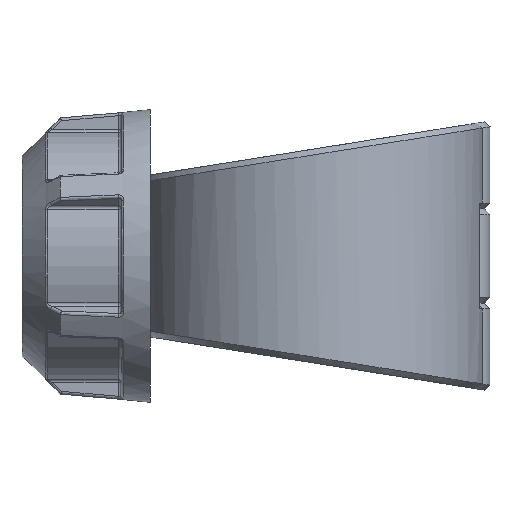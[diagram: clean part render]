
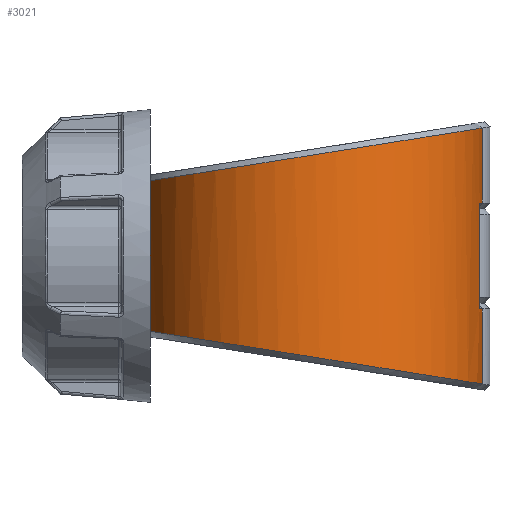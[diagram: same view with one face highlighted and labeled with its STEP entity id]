
A CAD part, left-side view. The second image highlights one B-rep face of the part: STEP entity #3021.
In plain terms, the highlighted cylindrical face has radius 59.5 mm (diameter 119 mm), a partial arc.
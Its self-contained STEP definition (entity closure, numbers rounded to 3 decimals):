
#212=FACE_OUTER_BOUND('',#416,.T.);
#416=EDGE_LOOP('',(#2055,#2056,#2057,#2058,#2059,#2060,#2061,#2062,#2063,
#2064,#2065,#2066));
#623=CIRCLE('',#3251,59.5);
#626=CIRCLE('',#3256,59.5);
#805=B_SPLINE_CURVE_WITH_KNOTS('',3,(#4524,#4525,#4526,#4527),
 .UNSPECIFIED.,.F.,.F.,(4,4),(-0.002,0.),.UNSPECIFIED.);
#806=B_SPLINE_CURVE_WITH_KNOTS('',3,(#4529,#4530,#4531,#4532),
 .UNSPECIFIED.,.F.,.F.,(4,4),(-3.037,-3.037),
 .UNSPECIFIED.);
#807=B_SPLINE_CURVE_WITH_KNOTS('',3,(#4533,#4534,#4535,#4536,#4537,#4538,
#4539,#4540,#4541,#4542),.UNSPECIFIED.,.F.,.F.,(4,1,1,1,1,1,1,4),(0.316,
0.596,1.005,1.415,1.824,2.233,
2.642,3.037),.UNSPECIFIED.);
#808=B_SPLINE_CURVE_WITH_KNOTS('',3,(#4544,#4545,#4546,#4547,#4548,#4549,
#4550,#4551,#4552,#4553),.UNSPECIFIED.,.F.,.F.,(4,1,1,1,1,1,1,4),(-3.037,
-2.642,-2.233,-1.824,-1.415,
-1.005,-0.596,-0.316),.UNSPECIFIED.);
#809=B_SPLINE_CURVE_WITH_KNOTS('',3,(#4555,#4556,#4557,#4558),
 .UNSPECIFIED.,.F.,.F.,(4,4),(3.037,3.037),
 .UNSPECIFIED.);
#810=B_SPLINE_CURVE_WITH_KNOTS('',3,(#4560,#4561,#4562,#4563),
 .UNSPECIFIED.,.F.,.F.,(4,4),(-0.435,-0.433),
 .UNSPECIFIED.);
#972=LINE('',#4397,#1093);
#979=LINE('',#4458,#1100);
#985=LINE('',#4522,#1106);
#986=LINE('',#4564,#1107);
#1093=VECTOR('',#3575,10.);
#1100=VECTOR('',#3592,10.);
#1106=VECTOR('',#3638,10.);
#1107=VECTOR('',#3639,10.);
#1216=VERTEX_POINT('',#4376);
#1217=VERTEX_POINT('',#4396);
#1229=VERTEX_POINT('',#4452);
#1230=VERTEX_POINT('',#4457);
#1236=VERTEX_POINT('',#4478);
#1239=VERTEX_POINT('',#4499);
#1243=VERTEX_POINT('',#4521);
#1244=VERTEX_POINT('',#4523);
#1245=VERTEX_POINT('',#4528);
#1246=VERTEX_POINT('',#4543);
#1247=VERTEX_POINT('',#4554);
#1248=VERTEX_POINT('',#4559);
#1510=EDGE_CURVE('',#1216,#1217,#972,.T.);
#1524=EDGE_CURVE('',#1229,#1230,#979,.T.);
#1537=EDGE_CURVE('',#1236,#1229,#623,.T.);
#1542=EDGE_CURVE('',#1230,#1239,#626,.T.);
#1548=EDGE_CURVE('',#1243,#1236,#985,.T.);
#1549=EDGE_CURVE('',#1244,#1243,#805,.T.);
#1550=EDGE_CURVE('',#1244,#1245,#806,.T.);
#1551=EDGE_CURVE('',#1217,#1245,#807,.T.);
#1552=EDGE_CURVE('',#1246,#1216,#808,.T.);
#1553=EDGE_CURVE('',#1246,#1247,#809,.T.);
#1554=EDGE_CURVE('',#1248,#1247,#810,.T.);
#1555=EDGE_CURVE('',#1239,#1248,#986,.T.);
#2055=ORIENTED_EDGE('',*,*,#1542,.F.);
#2056=ORIENTED_EDGE('',*,*,#1524,.F.);
#2057=ORIENTED_EDGE('',*,*,#1537,.F.);
#2058=ORIENTED_EDGE('',*,*,#1548,.F.);
#2059=ORIENTED_EDGE('',*,*,#1549,.F.);
#2060=ORIENTED_EDGE('',*,*,#1550,.T.);
#2061=ORIENTED_EDGE('',*,*,#1551,.F.);
#2062=ORIENTED_EDGE('',*,*,#1510,.F.);
#2063=ORIENTED_EDGE('',*,*,#1552,.F.);
#2064=ORIENTED_EDGE('',*,*,#1553,.T.);
#2065=ORIENTED_EDGE('',*,*,#1554,.F.);
#2066=ORIENTED_EDGE('',*,*,#1555,.F.);
#2962=CYLINDRICAL_SURFACE('',#3261,59.5);
#3021=ADVANCED_FACE('',(#212),#2962,.T.);
#3251=AXIS2_PLACEMENT_3D('',#4494,#3614,#3615);
#3256=AXIS2_PLACEMENT_3D('',#4508,#3624,#3625);
#3261=AXIS2_PLACEMENT_3D('',#4520,#3636,#3637);
#3575=DIRECTION('',(0.,0.,1.));
#3592=DIRECTION('',(0.,0.,-1.));
#3614=DIRECTION('center_axis',(0.,0.,-1.));
#3615=DIRECTION('ref_axis',(0.312,-0.95,0.));
#3624=DIRECTION('center_axis',(0.,0.,1.));
#3625=DIRECTION('ref_axis',(0.312,-0.95,0.));
#3636=DIRECTION('center_axis',(0.,0.,1.));
#3637=DIRECTION('ref_axis',(-0.312,0.95,0.));
#3638=DIRECTION('',(0.,0.,-1.));
#3639=DIRECTION('',(0.,0.,-1.));
#4376=CARTESIAN_POINT('',(-18.579,56.525,-26.198));
#4396=CARTESIAN_POINT('',(-18.579,56.525,26.198));
#4397=CARTESIAN_POINT('',(-18.579,56.525,0.));
#4452=CARTESIAN_POINT('',(-12.115,-58.254,18.45));
#4457=CARTESIAN_POINT('',(-12.115,-58.254,-18.45));
#4458=CARTESIAN_POINT('',(-12.115,-58.254,0.));
#4478=CARTESIAN_POINT('',(-6.19,-59.177,18.45));
#4494=CARTESIAN_POINT('Origin',(0.,0.,18.45));
#4499=CARTESIAN_POINT('',(-6.19,-59.177,-18.45));
#4508=CARTESIAN_POINT('Origin',(0.,0.,-18.45));
#4520=CARTESIAN_POINT('Origin',(0.,0.,0.));
#4521=CARTESIAN_POINT('',(-6.19,-59.177,44.557));
#4522=CARTESIAN_POINT('',(-6.19,-59.177,0.));
#4523=CARTESIAN_POINT('',(-6.17,-59.179,44.571));
#4524=CARTESIAN_POINT('Ctrl Pts',(-6.17,-59.179,44.571));
#4525=CARTESIAN_POINT('Ctrl Pts',(-6.177,-59.178,44.566));
#4526=CARTESIAN_POINT('Ctrl Pts',(-6.183,-59.177,44.562));
#4527=CARTESIAN_POINT('Ctrl Pts',(-6.19,-59.177,44.557));
#4528=CARTESIAN_POINT('',(-6.19,-59.177,44.571));
#4529=CARTESIAN_POINT('Ctrl Pts',(-6.17,-59.179,44.571));
#4530=CARTESIAN_POINT('Ctrl Pts',(-6.177,-59.178,44.571));
#4531=CARTESIAN_POINT('Ctrl Pts',(-6.183,-59.178,44.571));
#4532=CARTESIAN_POINT('Ctrl Pts',(-6.19,-59.177,44.571));
#4533=CARTESIAN_POINT('Ctrl Pts',(-18.578,56.522,26.198));
#4534=CARTESIAN_POINT('Ctrl Pts',(-23.882,54.776,26.474));
#4535=CARTESIAN_POINT('Ctrl Pts',(-36.33,48.65,27.442));
#4536=CARTESIAN_POINT('Ctrl Pts',(-51.823,32.556,29.987));
#4537=CARTESIAN_POINT('Ctrl Pts',(-60.49,9.2,33.688));
#4538=CARTESIAN_POINT('Ctrl Pts',(-59.157,-15.624,37.631));
#4539=CARTESIAN_POINT('Ctrl Pts',(-48.081,-37.819,41.164));
#4540=CARTESIAN_POINT('Ctrl Pts',(-29.378,-53.589,43.678));
#4541=CARTESIAN_POINT('Ctrl Pts',(-13.932,-58.366,44.441));
#4542=CARTESIAN_POINT('Ctrl Pts',(-6.19,-59.177,44.571));
#4543=CARTESIAN_POINT('',(-6.19,-59.177,-44.571));
#4544=CARTESIAN_POINT('Ctrl Pts',(-6.19,-59.177,-44.571));
#4545=CARTESIAN_POINT('Ctrl Pts',(-13.932,-58.366,-44.441));
#4546=CARTESIAN_POINT('Ctrl Pts',(-29.375,-53.586,-43.678));
#4547=CARTESIAN_POINT('Ctrl Pts',(-48.086,-37.823,-41.164));
#4548=CARTESIAN_POINT('Ctrl Pts',(-59.151,-15.622,-37.631));
#4549=CARTESIAN_POINT('Ctrl Pts',(-60.497,9.2,-33.688));
#4550=CARTESIAN_POINT('Ctrl Pts',(-51.819,32.555,-29.987));
#4551=CARTESIAN_POINT('Ctrl Pts',(-36.33,48.65,-27.442));
#4552=CARTESIAN_POINT('Ctrl Pts',(-23.882,54.776,-26.474));
#4553=CARTESIAN_POINT('Ctrl Pts',(-18.578,56.522,-26.198));
#4554=CARTESIAN_POINT('',(-6.17,-59.179,-44.571));
#4555=CARTESIAN_POINT('Ctrl Pts',(-6.19,-59.177,-44.571));
#4556=CARTESIAN_POINT('Ctrl Pts',(-6.183,-59.178,-44.571));
#4557=CARTESIAN_POINT('Ctrl Pts',(-6.177,-59.178,-44.571));
#4558=CARTESIAN_POINT('Ctrl Pts',(-6.17,-59.179,-44.571));
#4559=CARTESIAN_POINT('',(-6.19,-59.177,-44.557));
#4560=CARTESIAN_POINT('Ctrl Pts',(-6.19,-59.177,-44.557));
#4561=CARTESIAN_POINT('Ctrl Pts',(-6.183,-59.177,-44.562));
#4562=CARTESIAN_POINT('Ctrl Pts',(-6.176,-59.178,-44.566));
#4563=CARTESIAN_POINT('Ctrl Pts',(-6.17,-59.179,-44.571));
#4564=CARTESIAN_POINT('',(-6.19,-59.177,0.));
